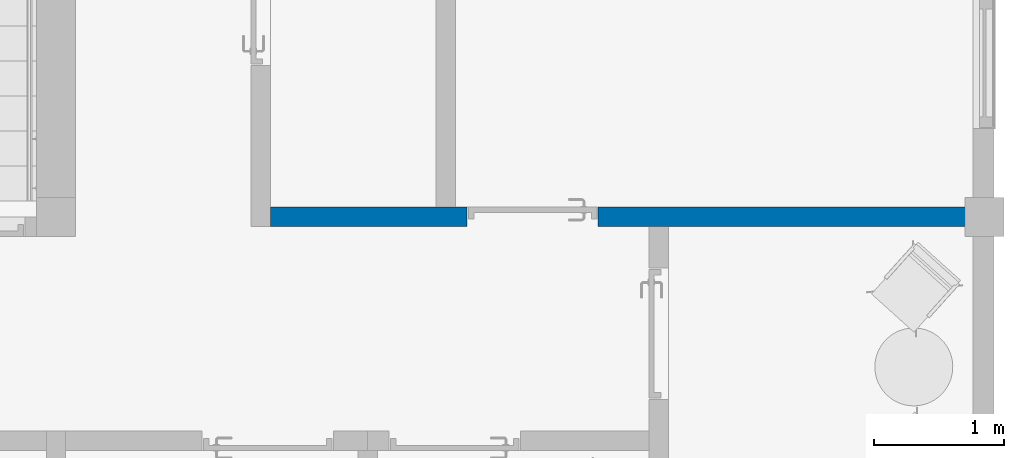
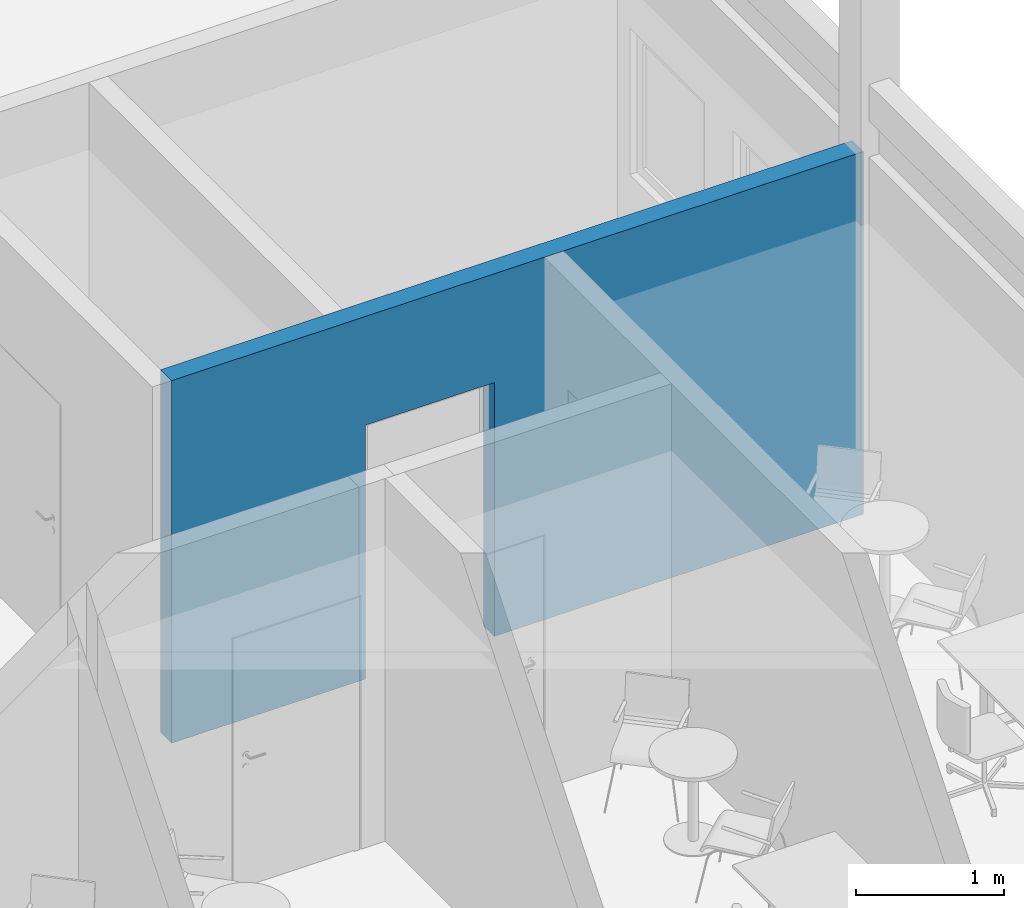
# One storey, part 23 of 58: 1 wall, 1 opening.
"""IFC2X3 building model written with IfcOpenShell, lengths in millimetres."""

from ifc_helpers import new_model, entity, si_unit, converted_unit, derived_unit, direction, frame, frame_2d, origin, place, context, subcontext, project, spatial, rectangle, extrude, material, layer, layer_set, layer_usage, type_object, element, save


model = new_model("IFC2X3")

# Units and contexts
model_context = context("Model", 3, precision=0.01, world=origin(), true_north=direction((0.7716245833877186, 0.6360782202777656)))
body_context = subcontext(model_context, "Body", "Model", "MODEL_VIEW")
ifc_project = project(units=[si_unit("LENGTHUNIT", "METRE", prefix="MILLI"), si_unit("AREAUNIT", "SQUARE_METRE"), converted_unit("PLANEANGLEUNIT", "DEGREE", entity("IfcPlaneAngleMeasure", 0.017453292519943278), si_unit("PLANEANGLEUNIT", "RADIAN"), dimensions=[0, 0, 0, 0, 0, 0, 0]), derived_unit("THERMALTRANSMITTANCEUNIT", [(si_unit("MASSUNIT", "GRAM", prefix="KILO"), 1), (si_unit("THERMODYNAMICTEMPERATUREUNIT", "KELVIN"), -1), (si_unit("TIMEUNIT", "SECOND"), -3)])], contexts=[model_context])

# Site, building, storey
site_placement = place(None, origin())
site = spatial("IfcSite", under=ifc_project, at=site_placement, Name="Default", CompositionType="ELEMENT")
building_placement = place(site_placement, origin())
building = spatial("IfcBuilding", under=site, at=building_placement, CompositionType="ELEMENT")
storey_placement = place(building_placement, frame((0.0, 0.0, 31140.0)))
storey = spatial("IfcBuildingStorey", under=building, at=storey_placement, Name="PLAN U1", CompositionType="ELEMENT", Elevation=31140.000000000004)

# Wall, opening
ifc_material = material(Name="Eksist. vegg")
ifc_layer = layer(ifc_material, 150.0)
ifc_layer_set = layer_set([ifc_layer], Name="Basic Wall:240 Eksist. Innervegg 150 mm")
ifc_layer_usage = layer_usage(ifc_layer_set, "AXIS2", "NEGATIVE", 75.0)
wall_type = type_object("IfcWallType", Name="Basic Wall:240 Eksist. Innervegg 150 mm", PredefinedType="STANDARD", material=ifc_layer_set)
wall_placement = place(storey_placement, frame((272417.924446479, 59315.255550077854, 0.0)))
wall = element("IfcWallStandardCase", 1, at=wall_placement, inside=storey, type_object=wall_type, material=ifc_layer_usage, Name="Basic Wall:240 Eksist. Innervegg 150 mm", ObjectType="Basic Wall:240 Eksist. Innervegg 150 mm", context=body_context, shape_type="SweptSolid", body=[
    extrude(rectangle(XDim=5412.332901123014, YDim=150.00000000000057, at=frame_2d((2706.166450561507, -1.9184653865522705e-13), x_axis=(-1.0, 0.0))), origin(), (0.0, 0.0, 1.0), 2999.9999999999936),
])
opening_placement = place(wall_placement, frame((1515.0, -75.0, 0.0)))
element("IfcOpeningElement", 2, at=opening_placement, cuts=wall, Name="Enfløyet:2441 Innvendig 10x21M:1", ObjectType="Opening", context=body_context, shape_type="SweptSolid", body=[
    extrude(rectangle(XDim=2100.0, YDim=1009.9999999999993, at=frame_2d((1049.9999999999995, 505.0000000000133), x_axis=(1.0, 0.0))), frame((0.0, 0.0, 0.0), z_axis=(0.0, 1.0, 0.0), x_axis=(0.0, 0.0, 1.0)), (0.0, 0.0, 1.0), 150.0),
])

save(model, "model.ifc")
